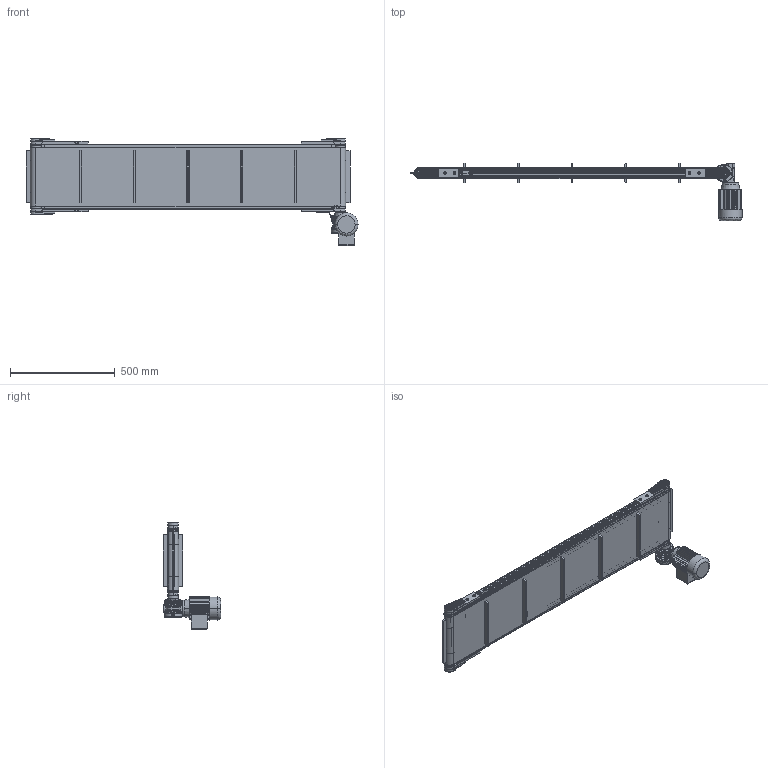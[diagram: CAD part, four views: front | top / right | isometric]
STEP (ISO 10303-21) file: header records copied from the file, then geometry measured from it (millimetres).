
FILE_DESCRIPTION (( 'STEP AP203' ), '1' );
FILE_NAME ('NASTRO_RETTILINEO_TAPPETO.step', '2026-04-23T13:06:22', ( 'Utente Windows' ), ( '' ), 'SwSTEP 2.0', 'SolidWorks 2024', '' );
FILE_SCHEMA (( 'CONFIG_CONTROL_DESIGN' ));
Length unit declared in the file: millimetre
Products named in the file (44): VITE_RONDELLA_M8X20; 084.802.008; VITI TE UNI 5739_M6x16 UNI 5739; NASTRO_RETTILINEO_TAPPETO; 084.811.001; 084.802.062; 084.302.000 DADI ALUSIC 13x13-1_084.302.004; 084.302.000 DADI ALUSIC 13x13-1_084.302.007; BLOCCO_TRAINO_50_STANDARD_30_SX_Motore a Sx; 084.302.000 DADI ALUSIC 13x13_084.302.004; BLOCCO_PERNO_50_30; VITI TSEI UNI 5933_M4x12 UNI 5933; TELAIO_50_STANDARD_Default<A macchina>; LAMIERA_STANDARD; VITI TCEI UNI 5931_M6x12 UNI 5931; 084.802.071; 084.303.001; VITI TSEI UNI 5933 INOX_0412UNI5933A2; 084.807.002_084.807.002; 084.803.018; 084.808.012; CHIAVETTE_A 5x5x20 UNI 6604-69; VITE_DADO_M5X12; BLOCCO_PERNO_50_RINVIO; 14UNI7435; 084.301.000 VITI ALUSIC_084.301.009; BLOCCO_BRACCIO_CH03P_VF30P; 084.802.017_084.802.017; RONDELLE FASCIA LARGA UNI 6593_5.4x20 UNI 6593; TAPPETO_STANDARD; 084.807.003_084.807.003<A macchina>; 084.811.004; RULLO_50_Default<A macchina>; 084.301.000 VITI ALUSIC_084.301.003; CH03P_SX; 084.802.061; VITI TSEI UNI 5933_M5x12 UNI 5933; VITI TSEI UNI 5933_M4x10 UNI 5933; BLOCCO_RINVIO_50_STANDARD; BLOCCO_TRAINO_50_STANDARD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
Assembly tree (87 placements, depth 4):
  NASTRO_RETTILINEO_TAPPETO
    TAPPETO_STANDARD
    TELAIO_50_STANDARD_Default<A macchina>
    LAMIERA_STANDARD
    RULLO_50_Default<A macchina>  x2
    BLOCCO_PERNO_50_RINVIO  x3
      084.811.004
      084.810.001
    BLOCCO_TRAINO_50_STANDARD
      084.807.002_084.807.002
      084.802.017_084.802.017
      084.301.000 VITI ALUSIC_084.301.003  x2
      084.302.000 DADI ALUSIC 13x13-1_084.302.004  x2
      VITI TSEI UNI 5933_M4x12 UNI 5933  x4
      084.802.071
      VITI TSEI UNI 5933 INOX_0412UNI5933A2  x2
    BLOCCO_PERNO_50_30
      084.810.001
      084.811.001
      RONDELLE FASCIA LARGA UNI 6593_5.4x20 UNI 6593
      084.301.000 VITI ALUSIC_084.301.009
      CHIAVETTE_A 5x5x40 UNI 6604-69
      CHIAVETTE_A 5x5x20 UNI 6604-69
      14UNI7435
    BLOCCO_TRAINO_50_STANDARD_30_SX_Motore a Sx
      084.807.003_084.807.003<A macchina>
      084.802.017_084.802.017
      084.301.000 VITI ALUSIC_084.301.003  x2
      084.302.000 DADI ALUSIC 13x13-1_084.302.004  x2
      BLOCCO_BRACCIO_CH03P_VF30P
        084.808.012
        084.802.062
        084.802.061
        VITI TE UNI 5739_M6x16 UNI 5739  x4
        084.803.018
        VITI TCEI UNI 5931_M6x12 UNI 5931  x4
      084.802.066_Default<A macchina>
      VITI TCEI UNI 5931_M4x25 UNI 5931  x2
    BLOCCO_RINVIO_50_STANDARD  x2
      084.807.002_084.807.002
      084.802.017_084.802.017
      084.802.008
      084.301.000 VITI ALUSIC_084.301.003
      084.302.000 DADI ALUSIC 13x13_084.302.004
      VITI TSEI UNI 5933_M4x10 UNI 5933
      084.802.071
    VITE_RONDELLA_M8X20  x5
      084.303.001
      084.301.000 VITI ALUSIC_084.301.003
    VITE_DADO_M5X12  x8
      084.302.000 DADI ALUSIC 13x13-1_084.302.007
      VITI TSEI UNI 5933_M5x12 UNI 5933
    CH03P_SX
Bounding box: 1582 x 274 x 510.4 mm (x, y, z)
Volume: 7911581.5 mm3; surface area: 5656815.3 mm2
Topology: 139 solids, 145 shells, 6276 faces, 16171 edges, 10359 vertices
Faces by surface type: plane 3172, cylinder 1657, cone 567, bspline 517, torus 329, sphere 34
Entity records: 136616 total; most frequent: CARTESIAN_POINT 39965, ORIENTED_EDGE 19592, DIRECTION 18218, EDGE_CURVE 9796, VERTEX_POINT 6322, AXIS2_PLACEMENT_3D 6275, LINE 5668, VECTOR 5668
